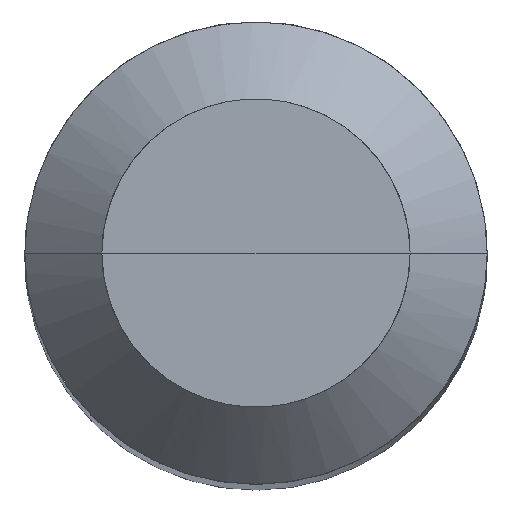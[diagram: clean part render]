
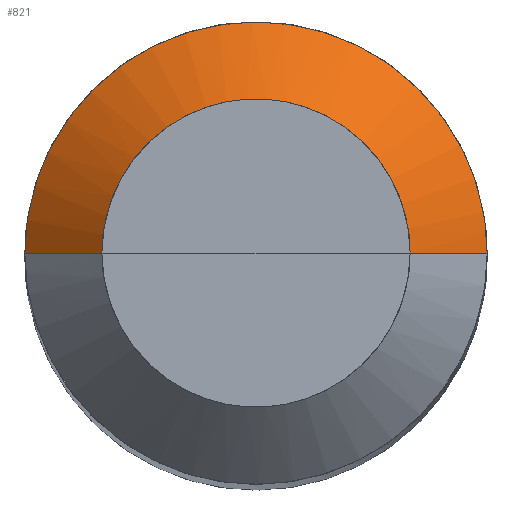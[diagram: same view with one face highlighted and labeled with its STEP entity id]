
A CAD part, top view. The second image highlights one B-rep face of the part: STEP entity #821.
In plain terms, the highlighted free-form (B-spline) face has degree [1, 2] with [2, 5] control points.
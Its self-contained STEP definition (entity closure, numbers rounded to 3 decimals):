
#462=CARTESIAN_POINT('',(3.0,0.0,42.5));
#463=CARTESIAN_POINT('',(3.0,3.0,42.5));
#464=CARTESIAN_POINT('',(0.0,3.0,42.5));
#465=CARTESIAN_POINT('',(-3.0,3.0,42.5));
#466=CARTESIAN_POINT('',(-3.0,0.0,42.5));
#467=CARTESIAN_POINT('',(2.0,0.0,43.5));
#468=CARTESIAN_POINT('',(2.0,2.0,43.5));
#469=CARTESIAN_POINT('',(0.0,2.0,43.5));
#470=CARTESIAN_POINT('',(-2.0,2.0,43.5));
#471=CARTESIAN_POINT('',(-2.0,0.0,43.5));
#802=(
BOUNDED_SURFACE()
B_SPLINE_SURFACE(1,2,(
(#462,#463,#464,#465,#466),
(#467,#468,#469,#470,#471)
), .UNSPECIFIED.,.F.,.F.,.F.)
B_SPLINE_SURFACE_WITH_KNOTS((2,2),(3,2,3),(
0.0,1.0),(
0.0,0.5,1.0), .UNSPECIFIED.)
GEOMETRIC_REPRESENTATION_ITEM()
RATIONAL_B_SPLINE_SURFACE(((1.0,0.707,1.0,0.707,1.0),
(1.0,0.707,1.0,0.707,1.0)
))
REPRESENTATION_ITEM('')
SURFACE()
);
#803=(
BOUNDED_CURVE()
B_SPLINE_CURVE(2,(#466,#465,#464,#463,#462),.UNSPECIFIED.,.F.,.F.)
B_SPLINE_CURVE_WITH_KNOTS((3,2,3),
(0.0,0.5,1.0),.UNSPECIFIED.)
CURVE()
GEOMETRIC_REPRESENTATION_ITEM()
RATIONAL_B_SPLINE_CURVE((1.0,0.707,1.0,0.707,1.0))
REPRESENTATION_ITEM('')
);
#804=(
BOUNDED_CURVE()
B_SPLINE_CURVE(1,(#462,#467),.UNSPECIFIED.,.F.,.F.)
B_SPLINE_CURVE_WITH_KNOTS((2,2),
(0.0,1.0),.UNSPECIFIED.)
CURVE()
GEOMETRIC_REPRESENTATION_ITEM()
RATIONAL_B_SPLINE_CURVE((1.0,1.0))
REPRESENTATION_ITEM('')
);
#805=(
BOUNDED_CURVE()
B_SPLINE_CURVE(2,(#467,#468,#469,#470,#471),.UNSPECIFIED.,.F.,.F.)
B_SPLINE_CURVE_WITH_KNOTS((3,2,3),
(0.0,0.5,1.0),.UNSPECIFIED.)
CURVE()
GEOMETRIC_REPRESENTATION_ITEM()
RATIONAL_B_SPLINE_CURVE((1.0,0.707,1.0,0.707,1.0))
REPRESENTATION_ITEM('')
);
#806=(
BOUNDED_CURVE()
B_SPLINE_CURVE(1,(#471,#466),.UNSPECIFIED.,.F.,.F.)
B_SPLINE_CURVE_WITH_KNOTS((2,2),
(0.0,1.0),.UNSPECIFIED.)
CURVE()
GEOMETRIC_REPRESENTATION_ITEM()
RATIONAL_B_SPLINE_CURVE((1.0,1.0))
REPRESENTATION_ITEM('')
);
#807=VERTEX_POINT('',#462);
#808=VERTEX_POINT('',#466);
#809=VERTEX_POINT('',#467);
#810=VERTEX_POINT('',#471);
#811=EDGE_CURVE('',#808,#807,#803,.T.);
#812=EDGE_CURVE('',#807,#809,#804,.T.);
#813=EDGE_CURVE('',#809,#810,#805,.T.);
#814=EDGE_CURVE('',#810,#808,#806,.T.);
#815=ORIENTED_EDGE('',*,*,#811,.T.);
#816=ORIENTED_EDGE('',*,*,#812,.T.);
#817=ORIENTED_EDGE('',*,*,#813,.T.);
#818=ORIENTED_EDGE('',*,*,#814,.T.);
#819=EDGE_LOOP('',(#815,#816,#817,#818));
#820=FACE_OUTER_BOUND('',#819,.T.);
#821=ADVANCED_FACE('',(#820),#802,.T.);
